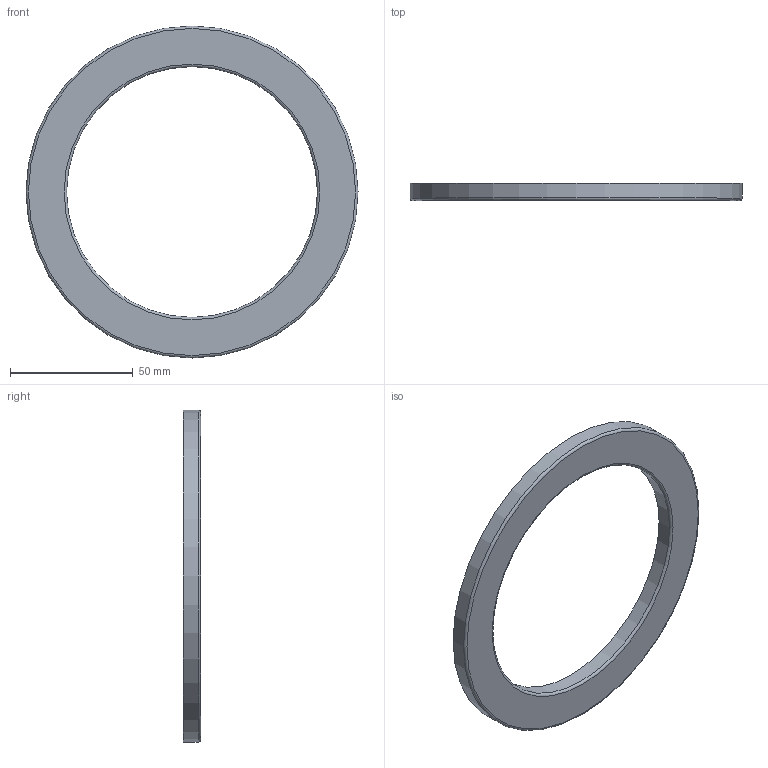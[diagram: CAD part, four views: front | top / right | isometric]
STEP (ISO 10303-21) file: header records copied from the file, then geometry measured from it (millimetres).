
FILE_DESCRIPTION(/* description */ (''),/* implementation_level */ '2;1');
FILE_NAME(/* name */ 'D:\moje\parametrické\811--\GS811--\GS81120.stp',/* time_stamp */ '2016-09-20T09:29:59+02:00',/* author */ ('OUBALASKO'),/* organization */ (''),/* preprocessor_version */ 'ST-DEVELOPER v15.6',/* originating_system */ 'Autodesk Inventor 2015',/* authorisation */ '');
FILE_SCHEMA (('AUTOMOTIVE_DESIGN { 1 0 10303 214 3 1 1 }'));
Length unit declared in the file: millimetre
Products named in the file (1): GS81120
Bounding box: 135 x 7 x 135 mm (x, y, z)
Volume: 42838.4 mm3; surface area: 17177.5 mm2
Topology: 1 solids, 1 shells, 6 faces, 10 edges, 6 vertices
Faces by surface type: cylinder 2, torus 2, plane 2
Full cylindrical faces by diameter (mm): 102 x1, 135 x1
Entity records: 152 total; most frequent: DIRECTION 26, CARTESIAN_POINT 19, AXIS2_PLACEMENT_3D 13, EDGE_LOOP 12, ORIENTED_EDGE 12, FACE_BOUND 6, FACE_OUTER_BOUND 6, CIRCLE 6
